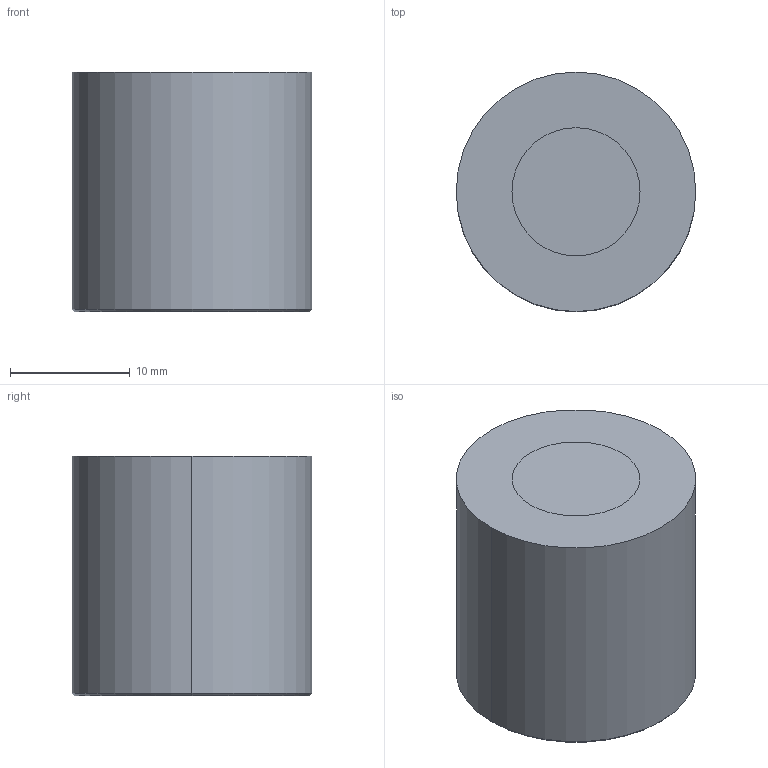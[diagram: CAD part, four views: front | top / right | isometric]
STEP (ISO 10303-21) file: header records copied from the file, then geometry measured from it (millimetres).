
FILE_DESCRIPTION (( 'STEP AP214' ), '1' );
FILE_NAME ('BruyRubio_Blank-20S.STEP', '2019-12-19T17:23:24', ( '' ), ( '' ), 'SwSTEP 2.0', 'SolidWorks 2017', '' );
FILE_SCHEMA (( 'AUTOMOTIVE_DESIGN' ));
Length unit declared in the file: millimetre
Products named in the file (1): BruyRubio_Blank-20S
Bounding box: 20 x 20 x 20 mm (x, y, z)
Volume: 5338.2 mm3; surface area: 2960.1 mm2
Topology: 2 solids, 2 shells, 18 faces, 34 edges, 22 vertices
Faces by surface type: cylinder 10, plane 6, cone 2
Entity records: 709 total; most frequent: DIRECTION 94, CARTESIAN_POINT 75, ORIENTED_EDGE 68, AXIS2_PLACEMENT_3D 41, EDGE_CURVE 34, UNCERTAINTY_MEASURE_WITH_UNIT 22, EDGE_LOOP 22, VERTEX_POINT 22
